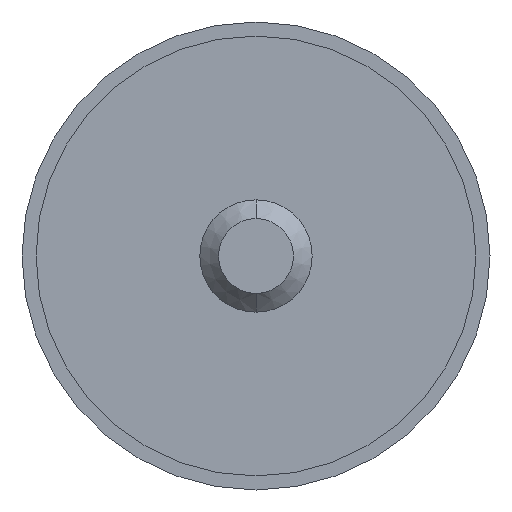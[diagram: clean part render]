
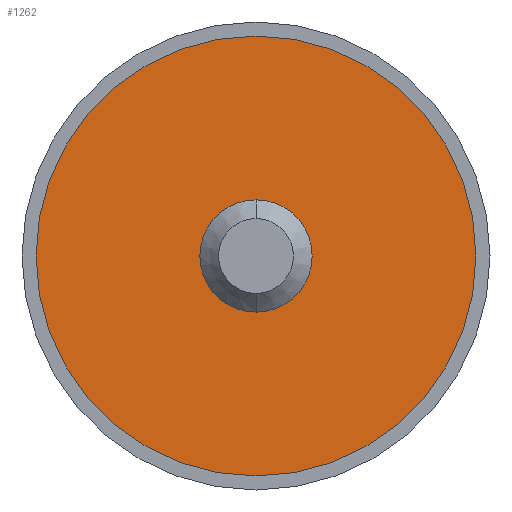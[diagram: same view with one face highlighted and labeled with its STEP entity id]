
A CAD part, front view. The second image highlights one B-rep face of the part: STEP entity #1262.
In plain terms, the highlighted planar face has unit normal (0, -1, 0).
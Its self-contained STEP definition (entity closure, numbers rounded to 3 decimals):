
#58 = CARTESIAN_POINT ( 'NONE',  ( 0., -1.5, 11.75 ) ) ;
#265 = AXIS2_PLACEMENT_3D ( 'NONE', #3509, #2210, #3849 ) ;
#302 = CIRCLE ( 'NONE', #1077, 3. ) ;
#542 = VERTEX_POINT ( 'NONE', #58 ) ;
#574 = VERTEX_POINT ( 'NONE', #3699 ) ;
#685 = CIRCLE ( 'NONE', #4233, 11.75 ) ;
#695 = DIRECTION ( 'NONE',  ( 0., 0., -1. ) ) ;
#805 = CARTESIAN_POINT ( 'NONE',  ( 0., -1.5, 3. ) ) ;
#976 = ORIENTED_EDGE ( 'NONE', *, *, #3754, .F. ) ;
#979 = ORIENTED_EDGE ( 'NONE', *, *, #2429, .F. ) ;
#1004 = EDGE_CURVE ( 'NONE', #4118, #1603, #302, .T. ) ;
#1028 = CARTESIAN_POINT ( 'NONE',  ( 0., -1.5, 0. ) ) ;
#1077 = AXIS2_PLACEMENT_3D ( 'NONE', #2341, #2677, #2993 ) ;
#1146 = CIRCLE ( 'NONE', #265, 11.75 ) ;
#1243 = AXIS2_PLACEMENT_3D ( 'NONE', #1028, #2663, #695 ) ;
#1257 = CARTESIAN_POINT ( 'NONE',  ( 0., -1.5, -3. ) ) ;
#1262 = ADVANCED_FACE ( 'NONE', ( #3510, #3029 ), #2793, .F. ) ;
#1348 = EDGE_LOOP ( 'NONE', ( #976, #2941 ) ) ;
#1375 = ORIENTED_EDGE ( 'NONE', *, *, #1004, .F. ) ;
#1603 = VERTEX_POINT ( 'NONE', #1257 ) ;
#1801 = AXIS2_PLACEMENT_3D ( 'NONE', #2836, #3162, #1855 ) ;
#1826 = DIRECTION ( 'NONE',  ( 0., 0., 1. ) ) ;
#1849 = EDGE_LOOP ( 'NONE', ( #1375, #979 ) ) ;
#1855 = DIRECTION ( 'NONE',  ( 0., 0., 1. ) ) ;
#1872 = CIRCLE ( 'NONE', #1243, 3. ) ;
#2196 = CARTESIAN_POINT ( 'NONE',  ( 0., -1.5, 0. ) ) ;
#2210 = DIRECTION ( 'NONE',  ( 0., 1., 0. ) ) ;
#2341 = CARTESIAN_POINT ( 'NONE',  ( 0., -1.5, 0. ) ) ;
#2429 = EDGE_CURVE ( 'NONE', #1603, #4118, #1872, .T. ) ;
#2663 = DIRECTION ( 'NONE',  ( 0., -1., 0. ) ) ;
#2677 = DIRECTION ( 'NONE',  ( 0., -1., 0. ) ) ;
#2793 = PLANE ( 'NONE',  #1801 ) ;
#2836 = CARTESIAN_POINT ( 'NONE',  ( 0., -1.5, 0. ) ) ;
#2941 = ORIENTED_EDGE ( 'NONE', *, *, #3418, .F. ) ;
#2993 = DIRECTION ( 'NONE',  ( 0., 0., -1. ) ) ;
#3029 = FACE_OUTER_BOUND ( 'NONE', #1348, .T. ) ;
#3162 = DIRECTION ( 'NONE',  ( 0., 1., 0. ) ) ;
#3418 = EDGE_CURVE ( 'NONE', #574, #542, #1146, .T. ) ;
#3509 = CARTESIAN_POINT ( 'NONE',  ( 0., -1.5, 0. ) ) ;
#3510 = FACE_BOUND ( 'NONE', #1849, .T. ) ;
#3699 = CARTESIAN_POINT ( 'NONE',  ( 0., -1.5, -11.75 ) ) ;
#3754 = EDGE_CURVE ( 'NONE', #542, #574, #685, .T. ) ;
#3849 = DIRECTION ( 'NONE',  ( 0., 0., 1. ) ) ;
#4118 = VERTEX_POINT ( 'NONE', #805 ) ;
#4196 = DIRECTION ( 'NONE',  ( 0., 1., 0. ) ) ;
#4233 = AXIS2_PLACEMENT_3D ( 'NONE', #2196, #4196, #1826 ) ;
